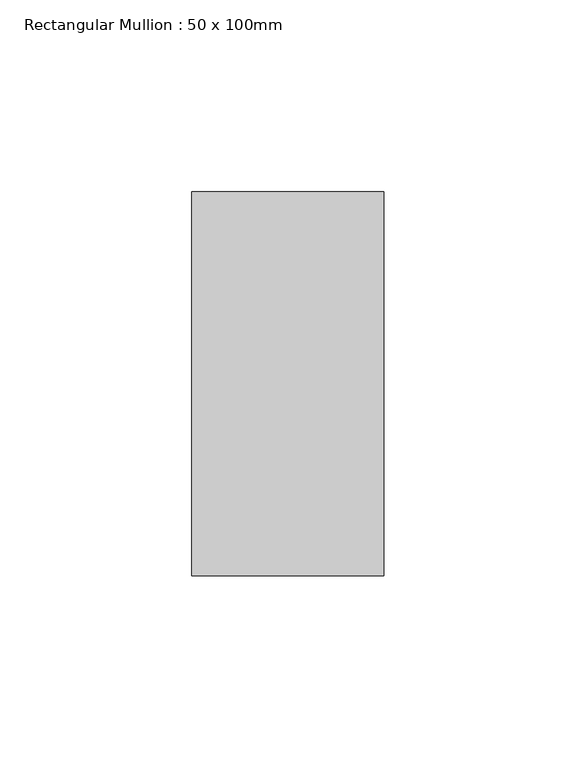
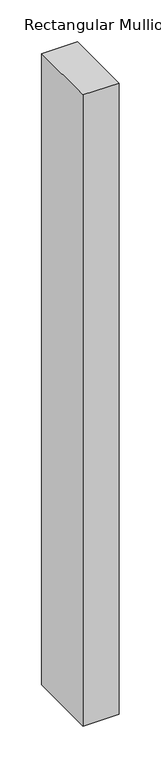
"""IFC4 building model written with IfcOpenShell, lengths in millimetres: member geometry, Rectangular Mullion : 50 x 100mm."""

from ifc_helpers import new_model, si_unit, frame, origin, place, context, project, spatial, polyline, outline, extrude, source, transform, mapped, element, save


def rectangular_mullion_50_x_100mm_458d3598(model_context):
    return source(origin(), model_context, "Body", "SweptSolid", [
        extrude(outline(polyline([(25.0, 50.0), (25.0, -50.0), (-25.0, -50.0), (-25.0, 50.0), (25.0, 50.0)])), frame((0.0, 0.0, -925.0), z_axis=(0.0, 0.0, 1.0), x_axis=(1.0, 0.0, 0.0)), (0.0, 0.0, 1.0), 925.0),
    ])


if __name__ == "__main__":
    model = new_model("IFC4")
    model_context = context("Model", 3, world=origin())
    ifc_project = project(units=[si_unit("LENGTHUNIT", "METRE", prefix="MILLI")], contexts=[model_context])
    site = spatial("IfcSite", under=ifc_project)
    building = spatial("IfcBuilding", under=site)
    placement = place(None, origin())
    rectangular_mullion_50_x_100mm_shape = rectangular_mullion_50_x_100mm_458d3598(model_context)
    element("IfcMember", 1, ObjectType="Rectangular Mullion : 50 x 100mm", at=placement, inside=building, context=model_context, shape_type="MappedRepresentation", body=[
        mapped(rectangular_mullion_50_x_100mm_shape, transform((0.0, 0.0, 0.0), x_axis=(1.0, 0.0, 0.0), y_axis=(0.0, 1.0, 0.0), z_axis=(0.0, 0.0, 1.0))),
    ])
    save(model, "model.ifc")
